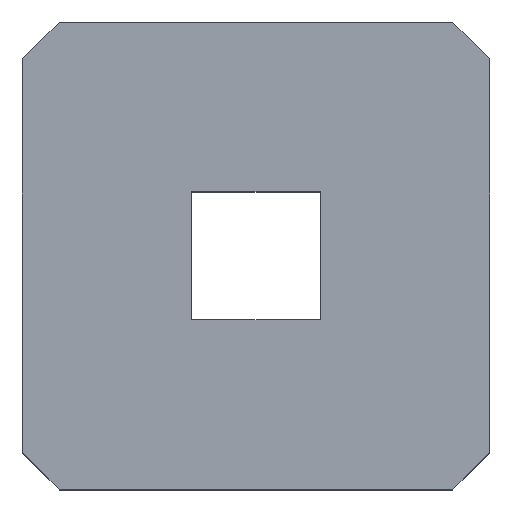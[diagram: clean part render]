
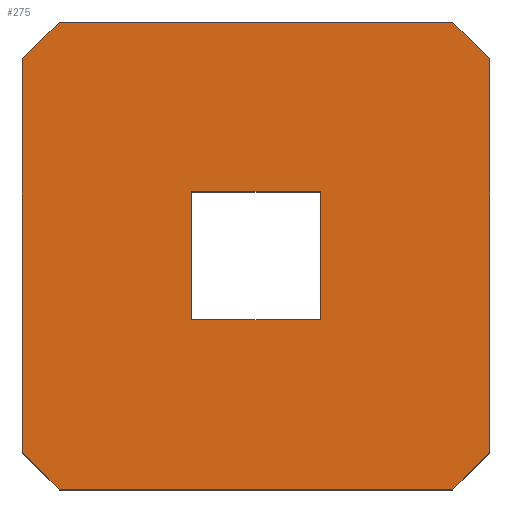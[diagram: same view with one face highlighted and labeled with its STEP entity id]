
A CAD part, top view. The second image highlights one B-rep face of the part: STEP entity #275.
In plain terms, the highlighted planar face has unit normal (0, 0, 1).
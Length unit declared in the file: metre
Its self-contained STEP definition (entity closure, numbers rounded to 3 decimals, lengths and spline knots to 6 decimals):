
#72=ORIENTED_EDGE('',*,*,#84,.T.);
#73=ORIENTED_EDGE('',*,*,#100,.F.);
#74=ORIENTED_EDGE('',*,*,#101,.T.);
#75=ORIENTED_EDGE('',*,*,#118,.F.);
#76=ORIENTED_EDGE('',*,*,#108,.T.);
#77=ORIENTED_EDGE('',*,*,#106,.F.);
#78=ORIENTED_EDGE('',*,*,#103,.T.);
#79=ORIENTED_EDGE('',*,*,#119,.F.);
#80=ORIENTED_EDGE('',*,*,#117,.F.);
#81=ORIENTED_EDGE('',*,*,#111,.F.);
#82=ORIENTED_EDGE('',*,*,#114,.F.);
#83=ORIENTED_EDGE('',*,*,#116,.F.);
#84=EDGE_CURVE('',#120,#121,#144,.T.);
#100=EDGE_CURVE('',#134,#121,#160,.T.);
#101=EDGE_CURVE('',#134,#135,#161,.T.);
#103=EDGE_CURVE('',#136,#137,#163,.T.);
#106=EDGE_CURVE('',#136,#138,#166,.T.);
#108=EDGE_CURVE('',#139,#138,#168,.T.);
#111=EDGE_CURVE('',#140,#141,#171,.T.);
#114=EDGE_CURVE('',#142,#140,#174,.T.);
#116=EDGE_CURVE('',#143,#142,#176,.T.);
#117=EDGE_CURVE('',#141,#143,#177,.T.);
#118=EDGE_CURVE('',#139,#135,#178,.T.);
#119=EDGE_CURVE('',#120,#137,#179,.T.);
#120=VERTEX_POINT('',#364);
#121=VERTEX_POINT('',#365);
#134=VERTEX_POINT('',#395);
#135=VERTEX_POINT('',#399);
#136=VERTEX_POINT('',#403);
#137=VERTEX_POINT('',#404);
#138=VERTEX_POINT('',#409);
#139=VERTEX_POINT('',#413);
#140=VERTEX_POINT('',#417);
#141=VERTEX_POINT('',#419);
#142=VERTEX_POINT('',#423);
#143=VERTEX_POINT('',#427);
#144=LINE('',#363,#180);
#160=LINE('',#396,#196);
#161=LINE('',#398,#197);
#163=LINE('',#402,#199);
#166=LINE('',#408,#202);
#168=LINE('',#412,#204);
#171=LINE('',#418,#207);
#174=LINE('',#424,#210);
#176=LINE('',#428,#212);
#177=LINE('',#430,#213);
#178=LINE('',#432,#214);
#179=LINE('',#434,#215);
#180=VECTOR('',#299,1.);
#196=VECTOR('',#319,1.);
#197=VECTOR('',#322,1.);
#199=VECTOR('',#326,1.);
#202=VECTOR('',#331,1.);
#204=VECTOR('',#335,1.);
#207=VECTOR('',#340,1.);
#210=VECTOR('',#345,1.);
#212=VECTOR('',#349,1.);
#213=VECTOR('',#352,1.);
#214=VECTOR('',#355,1.);
#215=VECTOR('',#358,1.);
#230=EDGE_LOOP('',(#72,#73,#74,#75,#76,#77,#78,#79));
#231=EDGE_LOOP('',(#80,#81,#82,#83));
#246=FACE_BOUND('',#230,.T.);
#247=FACE_BOUND('',#231,.T.);
#261=PLANE('',#294);
#275=ADVANCED_FACE('',(#246,#247),#261,.F.);
#294=AXIS2_PLACEMENT_3D('',#435,#359,#360);
#299=DIRECTION('',(-0.707,-0.707,0.));
#319=DIRECTION('',(0.,1.,0.));
#322=DIRECTION('',(0.707,-0.707,0.));
#326=DIRECTION('',(-0.707,0.707,0.));
#331=DIRECTION('',(0.,-1.,0.));
#335=DIRECTION('',(0.707,0.707,0.));
#340=DIRECTION('',(0.,-1.,0.));
#345=DIRECTION('',(-1.,0.,0.));
#349=DIRECTION('',(0.,1.,0.));
#352=DIRECTION('',(1.,0.,0.));
#355=DIRECTION('',(-1.,0.,0.));
#358=DIRECTION('',(1.,0.,0.));
#359=DIRECTION('',(0.,0.,-1.));
#360=DIRECTION('',(0.,1.,0.));
#363=CARTESIAN_POINT('',(0.029668,0.00895,-0.0259));
#364=CARTESIAN_POINT('',(0.029668,0.00895,-0.0259));
#365=CARTESIAN_POINT('',(0.029468,0.00875,-0.0259));
#395=CARTESIAN_POINT('',(0.029468,0.00661,-0.0259));
#396=CARTESIAN_POINT('',(0.029468,0.00641,-0.0259));
#398=CARTESIAN_POINT('',(0.029468,0.00661,-0.0259));
#399=CARTESIAN_POINT('',(0.029668,0.00641,-0.0259));
#402=CARTESIAN_POINT('',(0.032008,0.00875,-0.0259));
#403=CARTESIAN_POINT('',(0.032008,0.00875,-0.0259));
#404=CARTESIAN_POINT('',(0.031808,0.00895,-0.0259));
#408=CARTESIAN_POINT('',(0.032008,0.00895,-0.0259));
#409=CARTESIAN_POINT('',(0.032008,0.00661,-0.0259));
#412=CARTESIAN_POINT('',(0.031808,0.00641,-0.0259));
#413=CARTESIAN_POINT('',(0.031808,0.00641,-0.0259));
#417=CARTESIAN_POINT('',(0.030388,0.00803,-0.0259));
#418=CARTESIAN_POINT('',(0.030388,0.00803,-0.0259));
#419=CARTESIAN_POINT('',(0.030388,0.00733,-0.0259));
#423=CARTESIAN_POINT('',(0.031088,0.00803,-0.0259));
#424=CARTESIAN_POINT('',(0.031088,0.00803,-0.0259));
#427=CARTESIAN_POINT('',(0.031088,0.00733,-0.0259));
#428=CARTESIAN_POINT('',(0.031088,0.00733,-0.0259));
#430=CARTESIAN_POINT('',(0.030388,0.00733,-0.0259));
#432=CARTESIAN_POINT('',(0.032008,0.00641,-0.0259));
#434=CARTESIAN_POINT('',(0.029468,0.00895,-0.0259));
#435=CARTESIAN_POINT('',(0.030738,0.00768,-0.0259));
